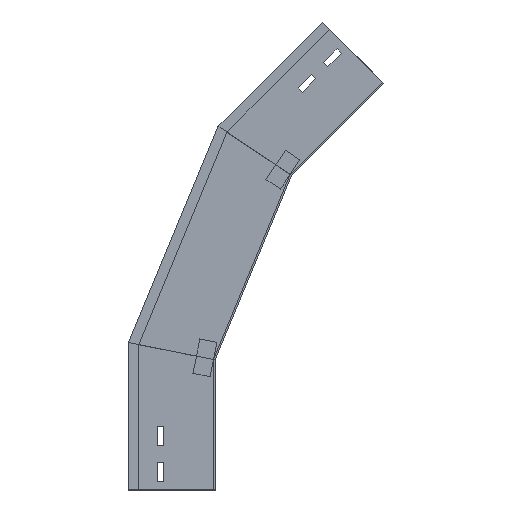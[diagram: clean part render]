
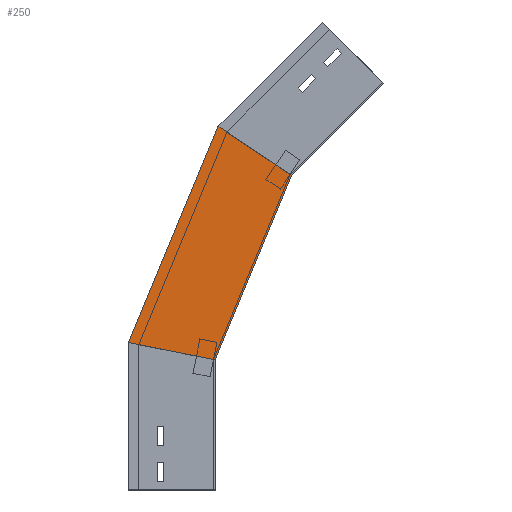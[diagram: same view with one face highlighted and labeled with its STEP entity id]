
A CAD part, left-side view. The second image highlights one B-rep face of the part: STEP entity #250.
In plain terms, the highlighted planar face has unit normal (-1, 0, 0) as drawn and (1, 0, 0) by its records, which use the part's own axes.
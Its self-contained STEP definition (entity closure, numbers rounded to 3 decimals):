
#16 = VECTOR ( 'NONE', #993, 1000. ) ;
#32 = ORIENTED_EDGE ( 'NONE', *, *, #1500, .T. ) ;
#71 = VERTEX_POINT ( 'NONE', #1328 ) ;
#73 = CARTESIAN_POINT ( 'NONE',  ( 0., -3.241, 419.138 ) ) ;
#74 = EDGE_LOOP ( 'NONE', ( #690, #32, #759, #1406 ) ) ;
#132 = PLANE ( 'NONE',  #1371 ) ;
#250 = ADVANCED_FACE ( 'NONE', ( #688 ), #132, .T. ) ;
#313 = CARTESIAN_POINT ( 'NONE',  ( 0., 100.799, 167.961 ) ) ;
#545 = DIRECTION ( 'NONE',  ( 1., 0., 0. ) ) ;
#558 = VECTOR ( 'NONE', #1363, 1000. ) ;
#574 = CARTESIAN_POINT ( 'NONE',  ( 0., 100., 169.891 ) ) ;
#579 = CARTESIAN_POINT ( 'NONE',  ( 0., -128.891, 335.181 ) ) ;
#688 = FACE_OUTER_BOUND ( 'NONE', #74, .T. ) ;
#690 = ORIENTED_EDGE ( 'NONE', *, *, #927, .T. ) ;
#759 = ORIENTED_EDGE ( 'NONE', *, *, #1402, .F. ) ;
#927 = EDGE_CURVE ( 'NONE', #1134, #1214, #1374, .T. ) ;
#936 = VERTEX_POINT ( 'NONE', #1242 ) ;
#942 = DIRECTION ( 'NONE',  ( 0., -0.831, -0.556 ) ) ;
#993 = DIRECTION ( 'NONE',  ( 0., -0.981, -0.195 ) ) ;
#996 = DIRECTION ( 'NONE',  ( 0., -0.383, 0.924 ) ) ;
#1005 = CARTESIAN_POINT ( 'NONE',  ( 0., 8.412, 129.693 ) ) ;
#1022 = DIRECTION ( 'NONE',  ( 0., 0., -1. ) ) ;
#1024 = LINE ( 'NONE', #1005, #558 ) ;
#1113 = LINE ( 'NONE', #1466, #16 ) ;
#1123 = CARTESIAN_POINT ( 'NONE',  ( 0., 8.412, 129.693 ) ) ;
#1134 = VERTEX_POINT ( 'NONE', #574 ) ;
#1147 = VECTOR ( 'NONE', #942, 1000. ) ;
#1214 = VERTEX_POINT ( 'NONE', #73 ) ;
#1242 = CARTESIAN_POINT ( 'NONE',  ( 0., -88.017, 362.492 ) ) ;
#1284 = EDGE_CURVE ( 'NONE', #1134, #71, #1113, .T. ) ;
#1328 = CARTESIAN_POINT ( 'NONE',  ( 0., 0., 150. ) ) ;
#1336 = VECTOR ( 'NONE', #996, 1000. ) ;
#1363 = DIRECTION ( 'NONE',  ( 0., -0.383, 0.924 ) ) ;
#1371 = AXIS2_PLACEMENT_3D ( 'NONE', #1123, #545, #1022 ) ;
#1374 = LINE ( 'NONE', #313, #1336 ) ;
#1391 = LINE ( 'NONE', #579, #1147 ) ;
#1402 = EDGE_CURVE ( 'NONE', #71, #936, #1024, .T. ) ;
#1406 = ORIENTED_EDGE ( 'NONE', *, *, #1284, .F. ) ;
#1466 = CARTESIAN_POINT ( 'NONE',  ( 0., -28.701, 144.291 ) ) ;
#1500 = EDGE_CURVE ( 'NONE', #1214, #936, #1391, .T. ) ;
